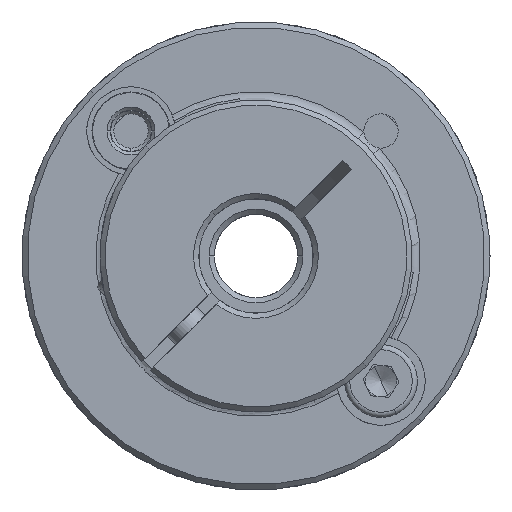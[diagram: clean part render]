
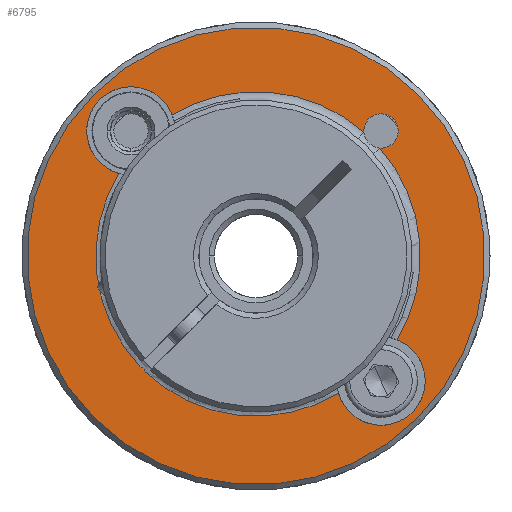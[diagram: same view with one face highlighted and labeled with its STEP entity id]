
A CAD part, front view. The second image highlights one B-rep face of the part: STEP entity #6795.
In plain terms, the highlighted planar face has unit normal (0, -1, 0).
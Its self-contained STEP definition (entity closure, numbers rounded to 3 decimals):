
#158 = DIRECTION ( 'NONE',  ( -0.707, 0., 0.707 ) ) ;
#215 = AXIS2_PLACEMENT_3D ( 'NONE', #1024, #3199, #9033 ) ;
#370 = DIRECTION ( 'NONE',  ( 0., 1., 0. ) ) ;
#379 = CIRCLE ( 'NONE', #5908, 15.8 ) ;
#548 = CARTESIAN_POINT ( 'NONE',  ( 4.674, -12.641, 36.931 ) ) ;
#634 = DIRECTION ( 'NONE',  ( 0., 1., 0. ) ) ;
#712 = VERTEX_POINT ( 'NONE', #548 ) ;
#753 = AXIS2_PLACEMENT_3D ( 'NONE', #7276, #370, #2707 ) ;
#907 = EDGE_CURVE ( 'NONE', #2402, #13399, #8846, .T. ) ;
#1024 = CARTESIAN_POINT ( 'NONE',  ( 3.11, -12.641, 57.021 ) ) ;
#1088 = VERTEX_POINT ( 'NONE', #9357 ) ;
#1159 = DIRECTION ( 'NONE',  ( 0., 1., 0. ) ) ;
#1263 = CARTESIAN_POINT ( 'NONE',  ( -0.974, -12.641, 31.803 ) ) ;
#1315 = EDGE_CURVE ( 'NONE', #7375, #11303, #12446, .T. ) ;
#1470 = DIRECTION ( 'NONE',  ( -0.707, 0., 0.707 ) ) ;
#1679 = CARTESIAN_POINT ( 'NONE',  ( -24.467, -12.641, 60.556 ) ) ;
#1818 = ORIENTED_EDGE ( 'NONE', *, *, #12470, .T. ) ;
#2006 = EDGE_CURVE ( 'NONE', #11660, #7789, #379, .T. ) ;
#2402 = VERTEX_POINT ( 'NONE', #9684 ) ;
#2433 = CARTESIAN_POINT ( 'NONE',  ( -19.663, -12.641, 34.067 ) ) ;
#2689 = DIRECTION ( 'NONE',  ( 0., 1., 0. ) ) ;
#2707 = DIRECTION ( 'NONE',  ( -0.707, 0., 0.707 ) ) ;
#2776 = ORIENTED_EDGE ( 'NONE', *, *, #2796, .T. ) ;
#2796 = EDGE_CURVE ( 'NONE', #3431, #1088, #9620, .T. ) ;
#2802 = CARTESIAN_POINT ( 'NONE',  ( -8.911, -12.641, 45. ) ) ;
#2970 = DIRECTION ( 'NONE',  ( 0., 1., 0. ) ) ;
#2986 = FACE_OUTER_BOUND ( 'NONE', #5860, .T. ) ;
#2992 = ORIENTED_EDGE ( 'NONE', *, *, #4369, .T. ) ;
#3013 = AXIS2_PLACEMENT_3D ( 'NONE', #11479, #14921, #3387 ) ;
#3199 = DIRECTION ( 'NONE',  ( 0., 1., 0. ) ) ;
#3387 = DIRECTION ( 'NONE',  ( -0.707, 0., 0.707 ) ) ;
#3422 = ORIENTED_EDGE ( 'NONE', *, *, #1315, .T. ) ;
#3431 = VERTEX_POINT ( 'NONE', #14908 ) ;
#3525 = CIRCLE ( 'NONE', #11968, 1.65 ) ;
#3535 = CARTESIAN_POINT ( 'NONE',  ( -23.937, -12.641, 60.026 ) ) ;
#3594 = CARTESIAN_POINT ( 'NONE',  ( 3.11, -12.641, 32.979 ) ) ;
#3838 = AXIS2_PLACEMENT_3D ( 'NONE', #10331, #8020, #8120 ) ;
#4137 = AXIS2_PLACEMENT_3D ( 'NONE', #9191, #9545, #12968 ) ;
#4211 = DIRECTION ( 'NONE',  ( -0.707, 0., 0.707 ) ) ;
#4255 = CARTESIAN_POINT ( 'NONE',  ( -8.911, -12.641, 45. ) ) ;
#4303 = PLANE ( 'NONE',  #14298 ) ;
#4344 = ORIENTED_EDGE ( 'NONE', *, *, #2006, .T. ) ;
#4369 = EDGE_CURVE ( 'NONE', #13399, #2402, #8439, .T. ) ;
#4648 = ORIENTED_EDGE ( 'NONE', *, *, #14411, .T. ) ;
#4927 = CARTESIAN_POINT ( 'NONE',  ( -19.844, -12.641, 34.248 ) ) ;
#5278 = VERTEX_POINT ( 'NONE', #9123 ) ;
#5318 = ORIENTED_EDGE ( 'NONE', *, *, #12555, .T. ) ;
#5585 = CARTESIAN_POINT ( 'NONE',  ( -22.108, -12.641, 52.937 ) ) ;
#5645 = CARTESIAN_POINT ( 'NONE',  ( -8.911, -12.641, 45. ) ) ;
#5800 = CIRCLE ( 'NONE', #215, 1.65 ) ;
#5860 = EDGE_LOOP ( 'NONE', ( #9158, #2992 ) ) ;
#5908 = AXIS2_PLACEMENT_3D ( 'NONE', #2802, #10854, #10894 ) ;
#6186 = CARTESIAN_POINT ( 'NONE',  ( -8.911, -12.641, 45. ) ) ;
#6299 = EDGE_CURVE ( 'NONE', #7789, #7375, #3525, .T. ) ;
#6396 = ORIENTED_EDGE ( 'NONE', *, *, #8315, .T. ) ;
#6480 = DIRECTION ( 'NONE',  ( -0.707, 0., 0.707 ) ) ;
#6521 = AXIS2_PLACEMENT_3D ( 'NONE', #6186, #11992, #1470 ) ;
#6713 = AXIS2_PLACEMENT_3D ( 'NONE', #14507, #634, #6480 ) ;
#6795 = ADVANCED_FACE ( 'NONE', ( #8743, #2986 ), #4303, .T. ) ;
#7054 = DIRECTION ( 'NONE',  ( -0.707, 0., 0.707 ) ) ;
#7208 = DIRECTION ( 'NONE',  ( 0., 1., 0. ) ) ;
#7216 = VERTEX_POINT ( 'NONE', #3535 ) ;
#7276 = CARTESIAN_POINT ( 'NONE',  ( 3.11, -12.641, 32.979 ) ) ;
#7288 = CIRCLE ( 'NONE', #4137, 4.25 ) ;
#7323 = ORIENTED_EDGE ( 'NONE', *, *, #9322, .T. ) ;
#7375 = VERTEX_POINT ( 'NONE', #10834 ) ;
#7474 = VERTEX_POINT ( 'NONE', #8714 ) ;
#7479 = ORIENTED_EDGE ( 'NONE', *, *, #8198, .T. ) ;
#7526 = CARTESIAN_POINT ( 'NONE',  ( 3.11, -12.641, 57.021 ) ) ;
#7653 = CARTESIAN_POINT ( 'NONE',  ( -8.911, -12.641, 45. ) ) ;
#7789 = VERTEX_POINT ( 'NONE', #8041 ) ;
#8020 = DIRECTION ( 'NONE',  ( 0., -1., 0. ) ) ;
#8041 = CARTESIAN_POINT ( 'NONE',  ( 1.463, -12.641, 56.917 ) ) ;
#8120 = DIRECTION ( 'NONE',  ( -0.707, 0., 0.707 ) ) ;
#8176 = EDGE_CURVE ( 'NONE', #12206, #7216, #14470, .T. ) ;
#8198 = EDGE_CURVE ( 'NONE', #10798, #3431, #13741, .T. ) ;
#8247 = CARTESIAN_POINT ( 'NONE',  ( 4.277, -12.641, 55.854 ) ) ;
#8248 = ORIENTED_EDGE ( 'NONE', *, *, #14475, .T. ) ;
#8315 = EDGE_CURVE ( 'NONE', #712, #7474, #14818, .T. ) ;
#8439 = CIRCLE ( 'NONE', #3838, 22. ) ;
#8700 = AXIS2_PLACEMENT_3D ( 'NONE', #3594, #7208, #7054 ) ;
#8714 = CARTESIAN_POINT ( 'NONE',  ( 6.115, -12.641, 29.974 ) ) ;
#8743 = FACE_BOUND ( 'NONE', #8924, .T. ) ;
#8808 = DIRECTION ( 'NONE',  ( 0., -1., 0. ) ) ;
#8846 = CIRCLE ( 'NONE', #13619, 22. ) ;
#8924 = EDGE_LOOP ( 'NONE', ( #1818, #12817, #4648, #4344, #10582, #3422, #7323, #5318, #6396, #8248, #7479, #2776 ) ) ;
#9033 = DIRECTION ( 'NONE',  ( -0.707, 0., 0.707 ) ) ;
#9123 = CARTESIAN_POINT ( 'NONE',  ( 3.006, -12.641, 55.374 ) ) ;
#9158 = ORIENTED_EDGE ( 'NONE', *, *, #907, .T. ) ;
#9179 = AXIS2_PLACEMENT_3D ( 'NONE', #5645, #1159, #10376 ) ;
#9191 = CARTESIAN_POINT ( 'NONE',  ( -20.932, -12.641, 57.021 ) ) ;
#9322 = EDGE_CURVE ( 'NONE', #11303, #5278, #5800, .T. ) ;
#9357 = CARTESIAN_POINT ( 'NONE',  ( -20.068, -12.641, 34.385 ) ) ;
#9414 = CARTESIAN_POINT ( 'NONE',  ( -19.526, -12.641, 33.843 ) ) ;
#9545 = DIRECTION ( 'NONE',  ( 0., 1., 0. ) ) ;
#9620 = B_SPLINE_CURVE_WITH_KNOTS ( 'NONE', 3,
 ( #9414, #2433, #4927, #10459 ),
 .UNSPECIFIED., .F., .F.,
 ( 4, 4 ),
 ( 0., 1. ),
 .UNSPECIFIED. ) ;
#9625 = DIRECTION ( 'NONE',  ( 0., -1., 0. ) ) ;
#9684 = CARTESIAN_POINT ( 'NONE',  ( 6.646, -12.641, 29.444 ) ) ;
#9971 = DIRECTION ( 'NONE',  ( -0.707, 0., 0.707 ) ) ;
#10098 = CARTESIAN_POINT ( 'NONE',  ( -16.98, -12.641, 58.584 ) ) ;
#10331 = CARTESIAN_POINT ( 'NONE',  ( -8.911, -12.641, 45. ) ) ;
#10376 = DIRECTION ( 'NONE',  ( -0.707, 0., 0.707 ) ) ;
#10404 = CIRCLE ( 'NONE', #6713, 15.8 ) ;
#10459 = CARTESIAN_POINT ( 'NONE',  ( -20.068, -12.641, 34.385 ) ) ;
#10582 = ORIENTED_EDGE ( 'NONE', *, *, #6299, .T. ) ;
#10723 = AXIS2_PLACEMENT_3D ( 'NONE', #7526, #2970, #14305 ) ;
#10798 = VERTEX_POINT ( 'NONE', #1263 ) ;
#10834 = CARTESIAN_POINT ( 'NONE',  ( 1.943, -12.641, 58.188 ) ) ;
#10854 = DIRECTION ( 'NONE',  ( 0., 1., 0. ) ) ;
#10894 = DIRECTION ( 'NONE',  ( -0.707, 0., 0.707 ) ) ;
#11303 = VERTEX_POINT ( 'NONE', #8247 ) ;
#11479 = CARTESIAN_POINT ( 'NONE',  ( -20.932, -12.641, 57.021 ) ) ;
#11660 = VERTEX_POINT ( 'NONE', #10098 ) ;
#11668 = CIRCLE ( 'NONE', #6521, 15.4 ) ;
#11968 = AXIS2_PLACEMENT_3D ( 'NONE', #13011, #2689, #4211 ) ;
#11992 = DIRECTION ( 'NONE',  ( 0., 1., 0. ) ) ;
#12206 = VERTEX_POINT ( 'NONE', #5585 ) ;
#12446 = CIRCLE ( 'NONE', #10723, 1.65 ) ;
#12470 = EDGE_CURVE ( 'NONE', #1088, #12206, #11668, .T. ) ;
#12555 = EDGE_CURVE ( 'NONE', #5278, #712, #10404, .T. ) ;
#12817 = ORIENTED_EDGE ( 'NONE', *, *, #8176, .T. ) ;
#12968 = DIRECTION ( 'NONE',  ( -0.707, 0., 0.707 ) ) ;
#13011 = CARTESIAN_POINT ( 'NONE',  ( 3.11, -12.641, 57.021 ) ) ;
#13399 = VERTEX_POINT ( 'NONE', #1679 ) ;
#13436 = CIRCLE ( 'NONE', #753, 4.25 ) ;
#13619 = AXIS2_PLACEMENT_3D ( 'NONE', #7653, #8808, #9971 ) ;
#13741 = CIRCLE ( 'NONE', #9179, 15.4 ) ;
#14298 = AXIS2_PLACEMENT_3D ( 'NONE', #4255, #9625, #158 ) ;
#14305 = DIRECTION ( 'NONE',  ( -0.707, 0., 0.707 ) ) ;
#14411 = EDGE_CURVE ( 'NONE', #7216, #11660, #7288, .T. ) ;
#14470 = CIRCLE ( 'NONE', #3013, 4.25 ) ;
#14475 = EDGE_CURVE ( 'NONE', #7474, #10798, #13436, .T. ) ;
#14507 = CARTESIAN_POINT ( 'NONE',  ( -8.911, -12.641, 45. ) ) ;
#14818 = CIRCLE ( 'NONE', #8700, 4.25 ) ;
#14908 = CARTESIAN_POINT ( 'NONE',  ( -19.526, -12.641, 33.843 ) ) ;
#14921 = DIRECTION ( 'NONE',  ( 0., 1., 0. ) ) ;
